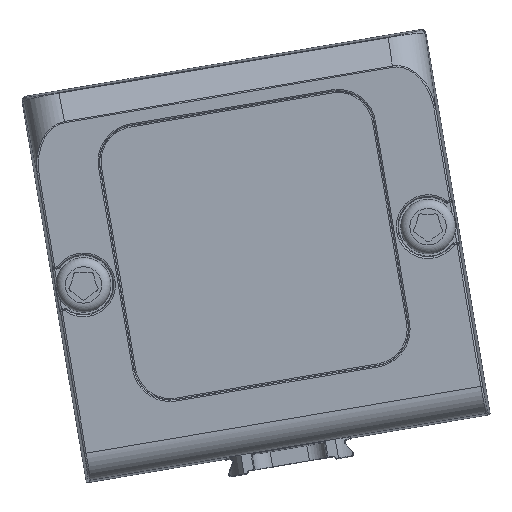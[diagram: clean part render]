
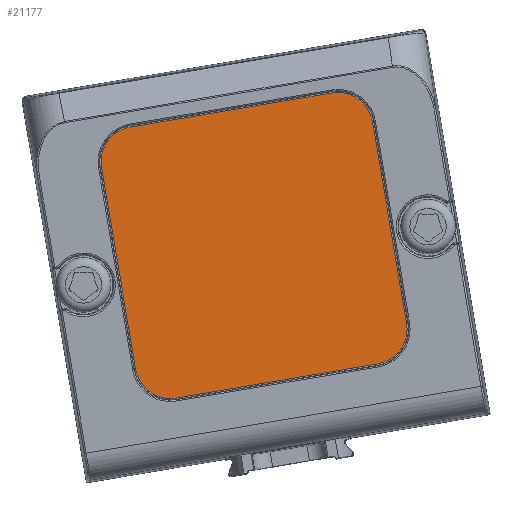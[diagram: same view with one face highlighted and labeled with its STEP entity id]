
A CAD part, front view. The second image highlights one B-rep face of the part: STEP entity #21177.
In plain terms, the highlighted planar face has unit normal (0, -1, 0) as drawn and (0, 0, -1) by its records, which use the part's own axes.
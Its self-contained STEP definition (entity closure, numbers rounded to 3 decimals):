
#2218=LINE('',#36709,#4072);
#2221=LINE('',#36715,#4075);
#2222=LINE('',#36719,#4076);
#2223=LINE('',#36723,#4077);
#4072=VECTOR('',#28545,22.5);
#4075=VECTOR('',#28550,22.5);
#4076=VECTOR('',#28553,22.5);
#4077=VECTOR('',#28556,22.5);
#4905=PLANE('',#23183);
#6479=FACE_OUTER_BOUND('',#7774,.T.);
#7774=EDGE_LOOP('',(#18847,#18848,#18849,#18850,#18851,#18852,#18853,#18854));
#8916=CIRCLE('',#23181,3.85);
#8917=CIRCLE('',#23184,3.85);
#8918=CIRCLE('',#23185,3.85);
#8919=CIRCLE('',#23186,3.85);
#10674=VERTEX_POINT('',#36702);
#10675=VERTEX_POINT('',#36704);
#10676=VERTEX_POINT('',#36708);
#10678=VERTEX_POINT('',#36714);
#10679=VERTEX_POINT('',#36716);
#10680=VERTEX_POINT('',#36718);
#10681=VERTEX_POINT('',#36720);
#10682=VERTEX_POINT('',#36722);
#13501=EDGE_CURVE('',#10674,#10675,#8916,.T.);
#13503=EDGE_CURVE('',#10675,#10676,#2218,.T.);
#13506=EDGE_CURVE('',#10678,#10674,#2221,.T.);
#13507=EDGE_CURVE('',#10679,#10678,#8917,.T.);
#13508=EDGE_CURVE('',#10680,#10679,#2222,.T.);
#13509=EDGE_CURVE('',#10681,#10680,#8918,.T.);
#13510=EDGE_CURVE('',#10682,#10681,#2223,.T.);
#13511=EDGE_CURVE('',#10676,#10682,#8919,.T.);
#18847=ORIENTED_EDGE('',*,*,#13501,.F.);
#18848=ORIENTED_EDGE('',*,*,#13506,.F.);
#18849=ORIENTED_EDGE('',*,*,#13507,.F.);
#18850=ORIENTED_EDGE('',*,*,#13508,.F.);
#18851=ORIENTED_EDGE('',*,*,#13509,.F.);
#18852=ORIENTED_EDGE('',*,*,#13510,.F.);
#18853=ORIENTED_EDGE('',*,*,#13511,.F.);
#18854=ORIENTED_EDGE('',*,*,#13503,.F.);
#21177=ADVANCED_FACE('',(#6479),#4905,.F.);
#23181=AXIS2_PLACEMENT_3D('',#36705,#28540,#28541);
#23183=AXIS2_PLACEMENT_3D('',#36713,#28548,#28549);
#23184=AXIS2_PLACEMENT_3D('',#36717,#28551,#28552);
#23185=AXIS2_PLACEMENT_3D('',#36721,#28554,#28555);
#23186=AXIS2_PLACEMENT_3D('',#36724,#28557,#28558);
#28540=DIRECTION('center_axis',(0.,0.,1.));
#28541=DIRECTION('ref_axis',(0.707,-0.707,0.));
#28545=DIRECTION('',(0.,1.,0.));
#28548=DIRECTION('center_axis',(0.,0.,1.));
#28549=DIRECTION('ref_axis',(1.,0.,0.));
#28550=DIRECTION('',(1.,0.,0.));
#28551=DIRECTION('center_axis',(0.,0.,1.));
#28552=DIRECTION('ref_axis',(-0.707,-0.707,0.));
#28553=DIRECTION('',(0.,-1.,0.));
#28554=DIRECTION('center_axis',(0.,0.,1.));
#28555=DIRECTION('ref_axis',(-0.707,0.707,0.));
#28556=DIRECTION('',(-1.,0.,0.));
#28557=DIRECTION('center_axis',(0.,0.,1.));
#28558=DIRECTION('ref_axis',(0.707,0.707,0.));
#36702=CARTESIAN_POINT('',(12.85,-16.7,-1.));
#36704=CARTESIAN_POINT('',(16.7,-12.85,-1.));
#36705=CARTESIAN_POINT('Origin',(12.85,-12.85,-1.));
#36708=CARTESIAN_POINT('',(16.7,9.65,-1.));
#36709=CARTESIAN_POINT('',(16.7,-12.85,-1.));
#36713=CARTESIAN_POINT('Origin',(1.6,-1.6,-1.));
#36714=CARTESIAN_POINT('',(-9.65,-16.7,-1.));
#36715=CARTESIAN_POINT('',(-9.65,-16.7,-1.));
#36716=CARTESIAN_POINT('',(-13.5,-12.85,-1.));
#36717=CARTESIAN_POINT('Origin',(-9.65,-12.85,-1.));
#36718=CARTESIAN_POINT('',(-13.5,9.65,-1.));
#36719=CARTESIAN_POINT('',(-13.5,9.65,-1.));
#36720=CARTESIAN_POINT('',(-9.65,13.5,-1.));
#36721=CARTESIAN_POINT('Origin',(-9.65,9.65,-1.));
#36722=CARTESIAN_POINT('',(12.85,13.5,-1.));
#36723=CARTESIAN_POINT('',(12.85,13.5,-1.));
#36724=CARTESIAN_POINT('Origin',(12.85,9.65,-1.));
